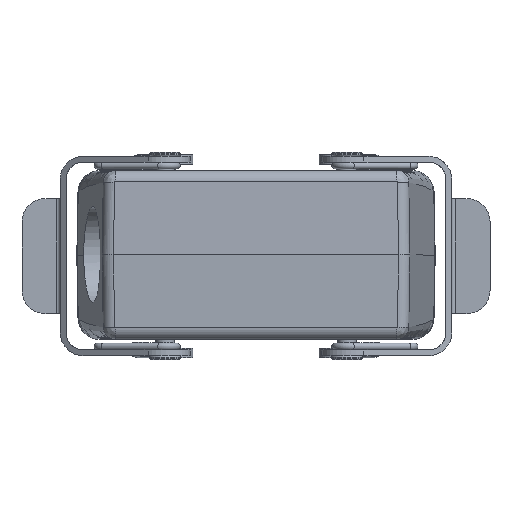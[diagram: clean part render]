
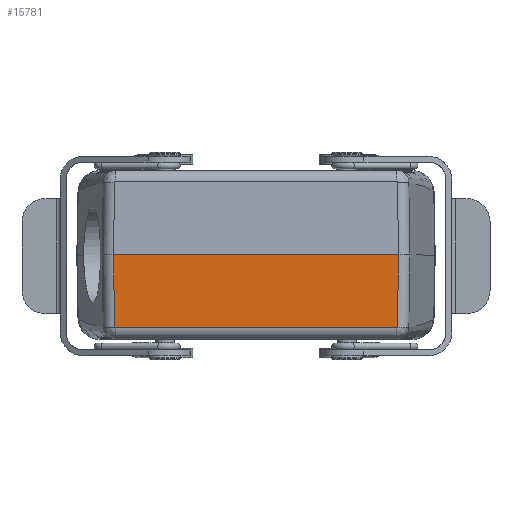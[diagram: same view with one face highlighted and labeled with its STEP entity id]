
A CAD part, top view. The second image highlights one B-rep face of the part: STEP entity #15781.
In plain terms, the highlighted planar face has unit normal (0, -0.018, 1).
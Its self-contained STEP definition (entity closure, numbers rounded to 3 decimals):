
#593 = CARTESIAN_POINT ( 'NONE',  ( -6.193, 24.313, 107.894 ) ) ;
#1251 = CARTESIAN_POINT ( 'NONE',  ( 67.875, 43.303, 108.225 ) ) ;
#1571 = VECTOR ( 'NONE', #30743, 1000. ) ;
#2022 = CARTESIAN_POINT ( 'NONE',  ( 67.598, 24.386, 107.895 ) ) ;
#2325 = CARTESIAN_POINT ( 'NONE',  ( 67.46, 24.251, 107.893 ) ) ;
#3231 = CARTESIAN_POINT ( 'NONE',  ( -6.3, 30.688, 108.005 ) ) ;
#3910 = ORIENTED_EDGE ( 'NONE', *, *, #6339, .F. ) ;
#4446 = DIRECTION ( 'NONE',  ( -0.015, -1., -0.017 ) ) ;
#5267 = CARTESIAN_POINT ( 'NONE',  ( -6.143, 24.264, 107.893 ) ) ;
#5337 = EDGE_CURVE ( 'NONE', #29870, #20299, #13107, .T. ) ;
#5629 = CARTESIAN_POINT ( 'NONE',  ( -6.485, 43.303, 108.225 ) ) ;
#6339 = EDGE_CURVE ( 'NONE', #16006, #20299, #8862, .T. ) ;
#7672 = CARTESIAN_POINT ( 'NONE',  ( -6.112, 24.251, 107.893 ) ) ;
#8862 = LINE ( 'NONE', #13933, #22668 ) ;
#10993 = DIRECTION ( 'NONE',  ( 1., 0., 0. ) ) ;
#11086 = DIRECTION ( 'NONE',  ( 0., -0.017, 1. ) ) ;
#11674 = VECTOR ( 'NONE', #10993, 1000. ) ;
#12198 = CARTESIAN_POINT ( 'NONE',  ( -6.208, 24.38, 107.895 ) ) ;
#12583 = CARTESIAN_POINT ( 'NONE',  ( -6.207, 24.344, 107.894 ) ) ;
#12666 = EDGE_CURVE ( 'NONE', #19538, #13871, #17810, .T. ) ;
#13107 = B_SPLINE_CURVE_WITH_KNOTS ( 'NONE', 3,
 ( #2325, #21213, #13893, #13997, #16298, #2022 ),
 .UNSPECIFIED., .F., .F.,
 ( 4, 2, 4 ),
 ( 0., 0.5, 1. ),
 .UNSPECIFIED. ) ;
#13871 = VERTEX_POINT ( 'NONE', #14200 ) ;
#13893 = CARTESIAN_POINT ( 'NONE',  ( 67.53, 24.265, 107.893 ) ) ;
#13933 = CARTESIAN_POINT ( 'NONE',  ( 67.875, 43.303, 108.225 ) ) ;
#13997 = CARTESIAN_POINT ( 'NONE',  ( 67.584, 24.316, 107.894 ) ) ;
#14200 = CARTESIAN_POINT ( 'NONE',  ( -6.076, 24.251, 107.893 ) ) ;
#14581 = ORIENTED_EDGE ( 'NONE', *, *, #17659, .F. ) ;
#14933 = ORIENTED_EDGE ( 'NONE', *, *, #21933, .T. ) ;
#15781 = ADVANCED_FACE ( 'NONE', ( #18165 ), #29773, .T. ) ;
#16006 = VERTEX_POINT ( 'NONE', #1251 ) ;
#16184 = EDGE_LOOP ( 'NONE', ( #27880, #23173, #3910, #14933, #14581, #25330 ) ) ;
#16298 = CARTESIAN_POINT ( 'NONE',  ( 67.597, 24.348, 107.894 ) ) ;
#17150 = VERTEX_POINT ( 'NONE', #18101 ) ;
#17506 = CARTESIAN_POINT ( 'NONE',  ( -6.208, 24.38, 107.895 ) ) ;
#17659 = EDGE_CURVE ( 'NONE', #19538, #17150, #30903, .T. ) ;
#17810 = B_SPLINE_CURVE_WITH_KNOTS ( 'NONE', 3,
 ( #19564, #12583, #593, #5267, #7672, #24364 ),
 .UNSPECIFIED., .F., .F.,
 ( 4, 2, 4 ),
 ( 0., 0.5, 1. ),
 .UNSPECIFIED. ) ;
#18101 = CARTESIAN_POINT ( 'NONE',  ( -6.485, 43.303, 108.225 ) ) ;
#18165 = FACE_OUTER_BOUND ( 'NONE', #16184, .T. ) ;
#19538 = VERTEX_POINT ( 'NONE', #12198 ) ;
#19564 = CARTESIAN_POINT ( 'NONE',  ( -6.208, 24.38, 107.895 ) ) ;
#20299 = VERTEX_POINT ( 'NONE', #24296 ) ;
#21213 = CARTESIAN_POINT ( 'NONE',  ( 67.497, 24.251, 107.893 ) ) ;
#21816 = CARTESIAN_POINT ( 'NONE',  ( 67.46, 24.251, 107.893 ) ) ;
#21933 = EDGE_CURVE ( 'NONE', #16006, #17150, #26921, .T. ) ;
#22042 = CARTESIAN_POINT ( 'NONE',  ( -6.392, 36.996, 108.115 ) ) ;
#22668 = VECTOR ( 'NONE', #4446, 1000. ) ;
#23173 = ORIENTED_EDGE ( 'NONE', *, *, #5337, .T. ) ;
#24296 = CARTESIAN_POINT ( 'NONE',  ( 67.598, 24.386, 107.895 ) ) ;
#24364 = CARTESIAN_POINT ( 'NONE',  ( -6.076, 24.251, 107.893 ) ) ;
#24695 = LINE ( 'NONE', #25266, #11674 ) ;
#25266 = CARTESIAN_POINT ( 'NONE',  ( -35.502, 24.251, 107.893 ) ) ;
#25330 = ORIENTED_EDGE ( 'NONE', *, *, #12666, .T. ) ;
#25358 = CARTESIAN_POINT ( 'NONE',  ( -35.502, 43.303, 108.225 ) ) ;
#25929 = CARTESIAN_POINT ( 'NONE',  ( -35.502, 43.303, 108.225 ) ) ;
#26921 = LINE ( 'NONE', #25929, #1571 ) ;
#27771 = DIRECTION ( 'NONE',  ( 0., -1., -0.017 ) ) ;
#27880 = ORIENTED_EDGE ( 'NONE', *, *, #29201, .T. ) ;
#27962 = AXIS2_PLACEMENT_3D ( 'NONE', #25358, #11086, #27771 ) ;
#29201 = EDGE_CURVE ( 'NONE', #13871, #29870, #24695, .T. ) ;
#29773 = PLANE ( 'NONE',  #27962 ) ;
#29870 = VERTEX_POINT ( 'NONE', #21816 ) ;
#30743 = DIRECTION ( 'NONE',  ( -1., 0., 0. ) ) ;
#30903 = B_SPLINE_CURVE_WITH_KNOTS ( 'NONE', 3,
 ( #17506, #3231, #22042, #5629 ),
 .UNSPECIFIED., .F., .F.,
 ( 4, 4 ),
 ( 0., 1. ),
 .UNSPECIFIED. ) ;
